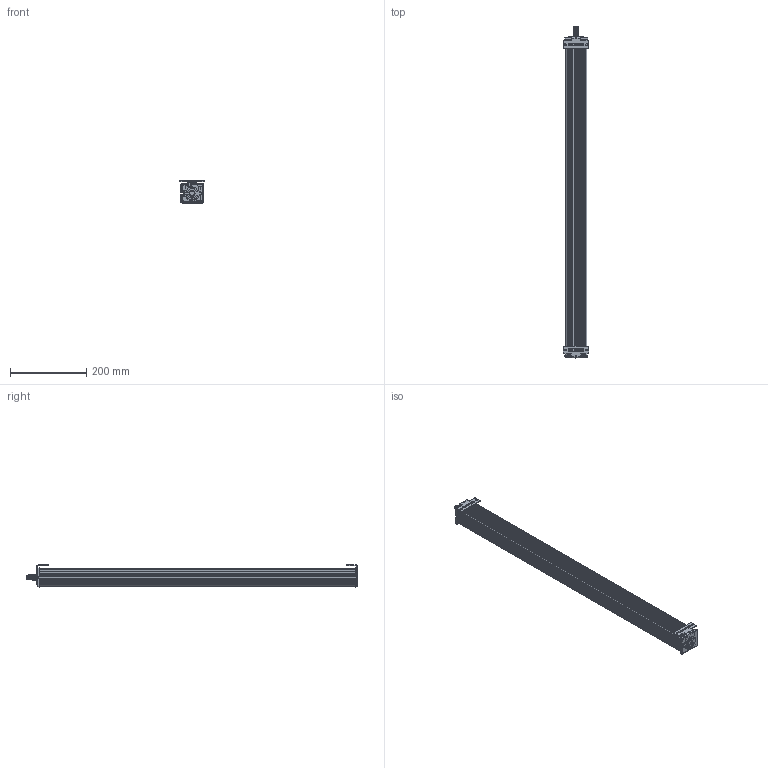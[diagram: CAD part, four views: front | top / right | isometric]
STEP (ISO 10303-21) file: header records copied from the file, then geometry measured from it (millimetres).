
FILE_DESCRIPTION(/* description */ (''),/* implementation_level */ '2;1');
FILE_NAME(/* name */ 'PT4-6.stp',/* time_stamp */ '2019-10-31T09:51:41+08:00',/* author */ (''),/* organization */ (''),/* preprocessor_version */ 'ST-DEVELOPER v15',/* originating_system */ 'SIEMENS PLM Software NX 8.5',/* authorisation */ '');
FILE_SCHEMA (('AP203_CONFIGURATION_CONTROLLED_3D_DESIGN_OF_MECHANICAL_PARTS_AND_ASSEMBLIES_MIM_LF { 1 0 10303 403 2 1 2}'));
Products named in the file (1): Admi1FACD5077spi
Bounding box: 68 x 873 x 57.86 mm (x, y, z)
Volume: 671730.6 mm3; surface area: 542795.4 mm2
Topology: 19 solids, 19 shells, 6860 faces, 19016 edges, 12474 vertices
Faces by surface type: plane 5932, cylinder 502, cone 162, bspline 138, torus 120, extrusion 6
Entity records: 222129 total; most frequent: CARTESIAN_POINT 47120, ORIENTED_EDGE 38032, DIRECTION 33182, EDGE_CURVE 19016, VECTOR 17280, LINE 17274, VERTEX_POINT 12474, AXIS2_PLACEMENT_3D 7951
